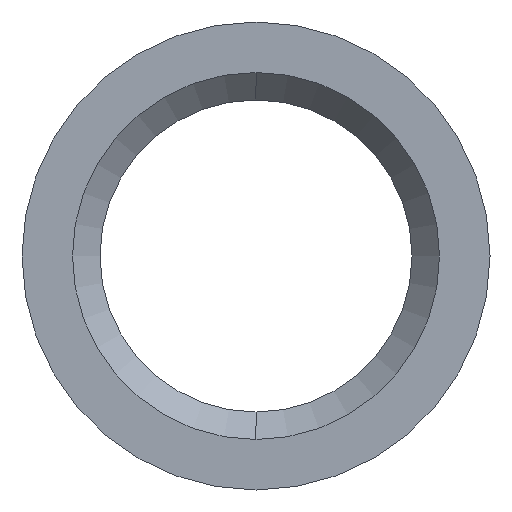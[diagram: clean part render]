
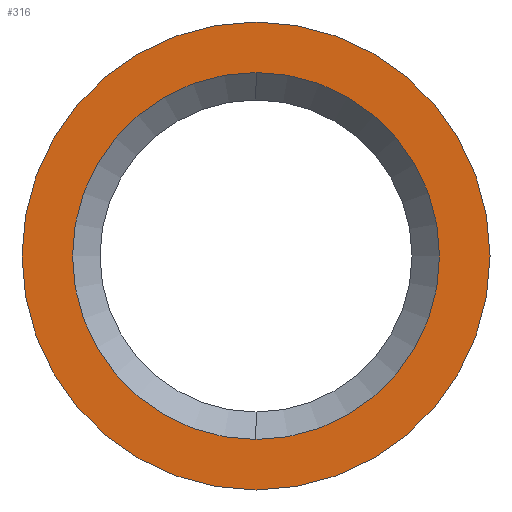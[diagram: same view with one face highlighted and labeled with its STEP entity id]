
A CAD part, left-side view. The second image highlights one B-rep face of the part: STEP entity #316.
In plain terms, the highlighted planar face has unit normal (-1, 0, 0).
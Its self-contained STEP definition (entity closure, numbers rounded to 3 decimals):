
#4 = FACE_BOUND ( 'NONE', #261, .T. ) ;
#10 = DIRECTION ( 'NONE',  ( -1., 0., 0. ) ) ;
#17 = AXIS2_PLACEMENT_3D ( 'NONE', #271, #1005, #1329 ) ;
#89 = CARTESIAN_POINT ( 'NONE',  ( -12.7, 0., 0. ) ) ;
#101 = AXIS2_PLACEMENT_3D ( 'NONE', #338, #141, #465 ) ;
#129 = CIRCLE ( 'NONE', #488, 4. ) ;
#140 = ORIENTED_EDGE ( 'NONE', *, *, #1237, .T. ) ;
#141 = DIRECTION ( 'NONE',  ( 1., 0., 0. ) ) ;
#185 = DIRECTION ( 'NONE',  ( 0., 0., -1. ) ) ;
#261 = EDGE_LOOP ( 'NONE', ( #1078, #845 ) ) ;
#271 = CARTESIAN_POINT ( 'NONE',  ( -12.7, 0., 0. ) ) ;
#275 = EDGE_CURVE ( 'NONE', #524, #963, #1046, .T. ) ;
#316 = ADVANCED_FACE ( 'NONE', ( #4, #1297 ), #1102, .F. ) ;
#325 = EDGE_CURVE ( 'NONE', #739, #1315, #129, .T. ) ;
#338 = CARTESIAN_POINT ( 'NONE',  ( -12.7, 5.1, 0. ) ) ;
#428 = EDGE_CURVE ( 'NONE', #1315, #739, #712, .T. ) ;
#451 = AXIS2_PLACEMENT_3D ( 'NONE', #89, #723, #185 ) ;
#465 = DIRECTION ( 'NONE',  ( 0., 0., -1. ) ) ;
#488 = AXIS2_PLACEMENT_3D ( 'NONE', #1209, #1318, #552 ) ;
#524 = VERTEX_POINT ( 'NONE', #694 ) ;
#552 = DIRECTION ( 'NONE',  ( 0., 0., -1. ) ) ;
#671 = CARTESIAN_POINT ( 'NONE',  ( -12.7, 0., -4. ) ) ;
#694 = CARTESIAN_POINT ( 'NONE',  ( -12.7, 0., 5.1 ) ) ;
#712 = CIRCLE ( 'NONE', #17, 4. ) ;
#723 = DIRECTION ( 'NONE',  ( -1., 0., 0. ) ) ;
#739 = VERTEX_POINT ( 'NONE', #1340 ) ;
#754 = AXIS2_PLACEMENT_3D ( 'NONE', #1097, #10, #1184 ) ;
#831 = CARTESIAN_POINT ( 'NONE',  ( -12.7, 0., -5.1 ) ) ;
#845 = ORIENTED_EDGE ( 'NONE', *, *, #428, .T. ) ;
#958 = CIRCLE ( 'NONE', #451, 5.1 ) ;
#963 = VERTEX_POINT ( 'NONE', #831 ) ;
#1005 = DIRECTION ( 'NONE',  ( 1., 0., 0. ) ) ;
#1046 = CIRCLE ( 'NONE', #754, 5.1 ) ;
#1057 = ORIENTED_EDGE ( 'NONE', *, *, #275, .T. ) ;
#1078 = ORIENTED_EDGE ( 'NONE', *, *, #325, .T. ) ;
#1097 = CARTESIAN_POINT ( 'NONE',  ( -12.7, 0., 0. ) ) ;
#1102 = PLANE ( 'NONE',  #101 ) ;
#1184 = DIRECTION ( 'NONE',  ( 0., 0., -1. ) ) ;
#1186 = EDGE_LOOP ( 'NONE', ( #140, #1057 ) ) ;
#1209 = CARTESIAN_POINT ( 'NONE',  ( -12.7, 0., 0. ) ) ;
#1237 = EDGE_CURVE ( 'NONE', #963, #524, #958, .T. ) ;
#1297 = FACE_OUTER_BOUND ( 'NONE', #1186, .T. ) ;
#1315 = VERTEX_POINT ( 'NONE', #671 ) ;
#1318 = DIRECTION ( 'NONE',  ( 1., 0., 0. ) ) ;
#1329 = DIRECTION ( 'NONE',  ( 0., 0., -1. ) ) ;
#1340 = CARTESIAN_POINT ( 'NONE',  ( -12.7, 0., 4. ) ) ;
